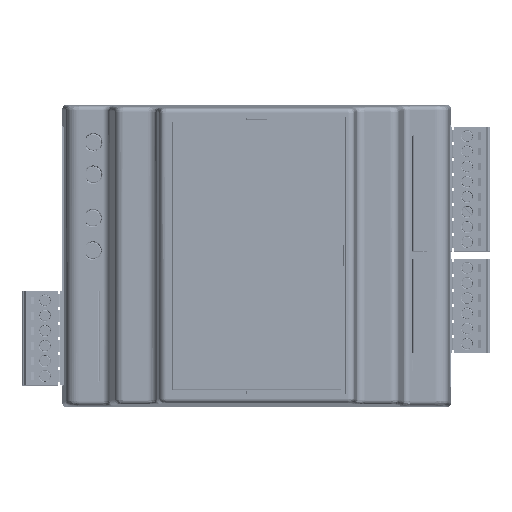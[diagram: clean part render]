
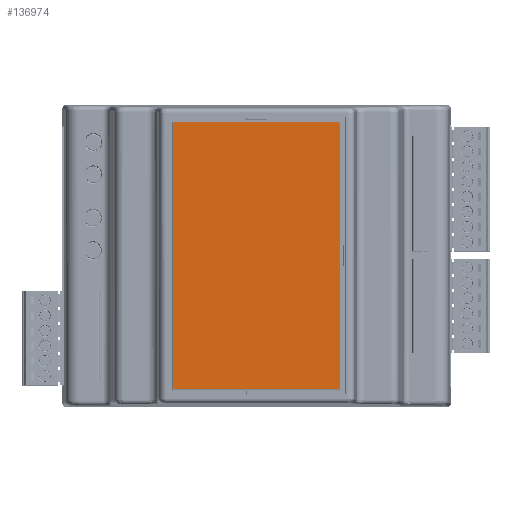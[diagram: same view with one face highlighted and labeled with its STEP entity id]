
A CAD part, top view. The second image highlights one B-rep face of the part: STEP entity #136974.
In plain terms, the highlighted planar face has unit normal (0, 0, 1).
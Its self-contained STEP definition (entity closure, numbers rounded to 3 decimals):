
#3200=CIRCLE('',#145676,0.5);
#3202=CIRCLE('',#145680,0.5);
#3203=CIRCLE('',#145681,0.5);
#3204=CIRCLE('',#145682,0.5);
#15927=PLANE('',#145679);
#21756=FACE_OUTER_BOUND('',#29447,.T.);
#29447=EDGE_LOOP('',(#104679,#104680,#104681,#104682,#104683,#104684,#104685,
#104686));
#39901=LINE('',#203270,#53436);
#39904=LINE('',#203276,#53439);
#39905=LINE('',#203280,#53440);
#39906=LINE('',#203284,#53441);
#53436=VECTOR('',#160791,10.);
#53439=VECTOR('',#160796,10.);
#53440=VECTOR('',#160799,10.);
#53441=VECTOR('',#160802,10.);
#67271=VERTEX_POINT('',#203260);
#67272=VERTEX_POINT('',#203261);
#67275=VERTEX_POINT('',#203269);
#67277=VERTEX_POINT('',#203275);
#67278=VERTEX_POINT('',#203277);
#67279=VERTEX_POINT('',#203279);
#67280=VERTEX_POINT('',#203281);
#67281=VERTEX_POINT('',#203283);
#81434=EDGE_CURVE('',#67271,#67272,#3200,.T.);
#81438=EDGE_CURVE('',#67275,#67272,#39901,.T.);
#81441=EDGE_CURVE('',#67271,#67277,#39904,.T.);
#81442=EDGE_CURVE('',#67278,#67277,#3202,.T.);
#81443=EDGE_CURVE('',#67278,#67279,#39905,.T.);
#81444=EDGE_CURVE('',#67280,#67279,#3203,.T.);
#81445=EDGE_CURVE('',#67280,#67281,#39906,.T.);
#81446=EDGE_CURVE('',#67275,#67281,#3204,.T.);
#104679=ORIENTED_EDGE('',*,*,#81434,.F.);
#104680=ORIENTED_EDGE('',*,*,#81441,.T.);
#104681=ORIENTED_EDGE('',*,*,#81442,.F.);
#104682=ORIENTED_EDGE('',*,*,#81443,.T.);
#104683=ORIENTED_EDGE('',*,*,#81444,.F.);
#104684=ORIENTED_EDGE('',*,*,#81445,.T.);
#104685=ORIENTED_EDGE('',*,*,#81446,.F.);
#104686=ORIENTED_EDGE('',*,*,#81438,.T.);
#136974=ADVANCED_FACE('',(#21756),#15927,.T.);
#145676=AXIS2_PLACEMENT_3D('',#203262,#160783,#160784);
#145679=AXIS2_PLACEMENT_3D('',#203274,#160794,#160795);
#145680=AXIS2_PLACEMENT_3D('',#203278,#160797,#160798);
#145681=AXIS2_PLACEMENT_3D('',#203282,#160800,#160801);
#145682=AXIS2_PLACEMENT_3D('',#203285,#160803,#160804);
#160783=DIRECTION('center_axis',(0.,0.,-1.));
#160784=DIRECTION('ref_axis',(-0.707,0.707,0.));
#160791=DIRECTION('',(-1.,0.,0.));
#160794=DIRECTION('center_axis',(0.,0.,1.));
#160795=DIRECTION('ref_axis',(1.,0.,0.));
#160796=DIRECTION('',(0.,-1.,0.));
#160797=DIRECTION('center_axis',(0.,0.,-1.));
#160798=DIRECTION('ref_axis',(-0.707,-0.707,0.));
#160799=DIRECTION('',(1.,0.,0.));
#160800=DIRECTION('center_axis',(0.,0.,-1.));
#160801=DIRECTION('ref_axis',(0.707,-0.707,0.));
#160802=DIRECTION('',(0.,1.,0.));
#160803=DIRECTION('center_axis',(0.,0.,-1.));
#160804=DIRECTION('ref_axis',(0.707,0.707,0.));
#203260=CARTESIAN_POINT('',(29.661,68.325,0.4));
#203261=CARTESIAN_POINT('',(30.161,68.825,0.4));
#203262=CARTESIAN_POINT('Origin',(30.161,68.325,0.4));
#203269=CARTESIAN_POINT('',(67.926,68.825,0.4));
#203270=CARTESIAN_POINT('',(68.426,68.825,0.4));
#203274=CARTESIAN_POINT('Origin',(49.043,37.943,0.4));
#203275=CARTESIAN_POINT('',(29.661,7.56,0.4));
#203276=CARTESIAN_POINT('',(29.661,68.825,0.4));
#203277=CARTESIAN_POINT('',(30.161,7.06,0.4));
#203278=CARTESIAN_POINT('Origin',(30.161,7.56,0.4));
#203279=CARTESIAN_POINT('',(67.926,7.06,0.4));
#203280=CARTESIAN_POINT('',(29.661,7.06,0.4));
#203281=CARTESIAN_POINT('',(68.426,7.56,0.4));
#203282=CARTESIAN_POINT('Origin',(67.926,7.56,0.4));
#203283=CARTESIAN_POINT('',(68.426,68.325,0.4));
#203284=CARTESIAN_POINT('',(68.426,7.06,0.4));
#203285=CARTESIAN_POINT('Origin',(67.926,68.325,0.4));
